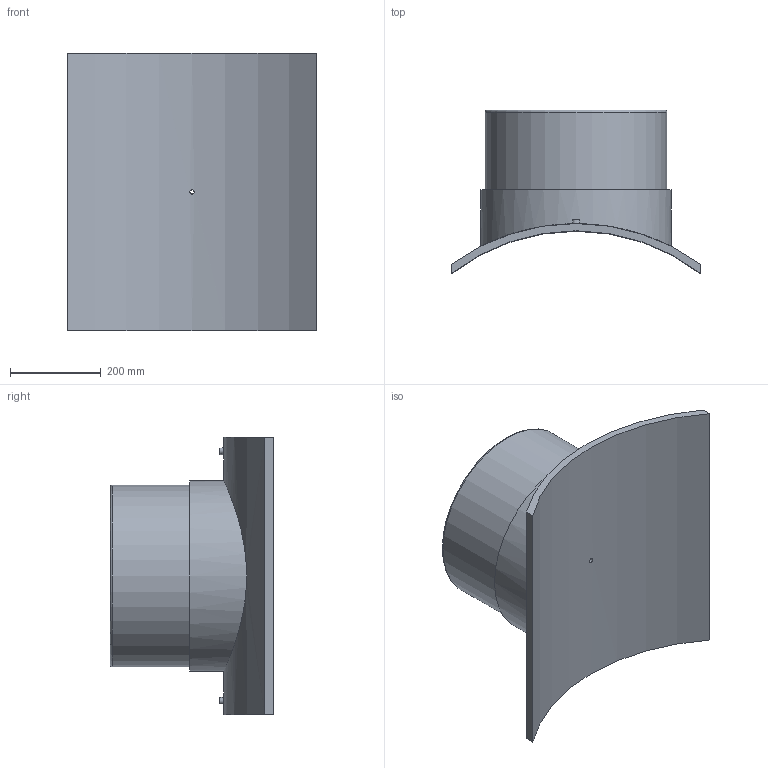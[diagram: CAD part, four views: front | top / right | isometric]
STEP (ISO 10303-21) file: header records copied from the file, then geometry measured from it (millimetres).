
FILE_DESCRIPTION(/* description */ ('PLASSON BRANCH SADDLE 900x400'),/* implementation_level */ '2;1');
FILE_NAME(/* name */ 'C:\Dropbox\99-16-3568-Processing\ElectroFusion Fittings\495803\495803900400T.ipt.stp',/* time_stamp */ '2021-02-25T09:46:16+02:00',/* author */ ('KIM'),/* organization */ (''),/* preprocessor_version */ 'ST-DEVELOPER v17.2',/* originating_system */ 'Autodesk Inventor 2019',/* authorisation */ '');
FILE_SCHEMA (('AUTOMOTIVE_DESIGN { 1 0 10303 214 3 1 1 }'));
Length unit declared in the file: millimetre
Products named in the file (1): 495803900400T
Bounding box: 550 x 359.8 x 610 mm (x, y, z)
Volume: 19163031.9 mm3; surface area: 1385371.6 mm2
Topology: 1 solids, 1 shells, 29 faces, 60 edges, 43 vertices
Faces by surface type: plane 13, cylinder 12, torus 2, cone 2
Full cylindrical faces by diameter (mm): 4 x2, 9.6 x1, 10 x2, 16 x1, 320 x1, 400 x1, 420 x1
Entity records: 1118 total; most frequent: CARTESIAN_POINT 432, DIRECTION 139, ORIENTED_EDGE 120, EDGE_CURVE 60, AXIS2_PLACEMENT_3D 60, VERTEX_POINT 43, EDGE_LOOP 41, CIRCLE 30
